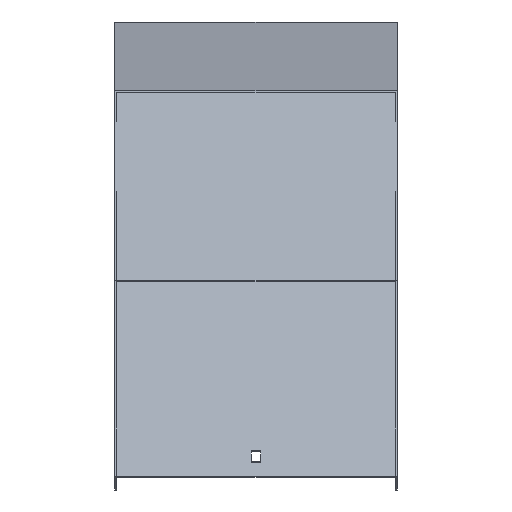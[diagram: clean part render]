
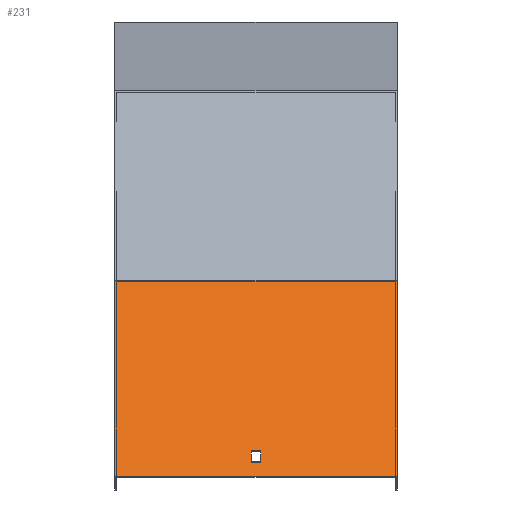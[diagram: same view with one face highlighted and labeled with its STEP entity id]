
A CAD part, top view. The second image highlights one B-rep face of the part: STEP entity #231.
In plain terms, the highlighted planar face has unit normal (0, 0.5, 0.866).
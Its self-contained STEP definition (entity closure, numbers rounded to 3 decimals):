
#1 = DIRECTION ( 'NONE',  ( 0., -0.866, 0.5 ) ) ;
#3 = CARTESIAN_POINT ( 'NONE',  ( 101.5, -168.696, 486.832 ) ) ;
#21 = VERTEX_POINT ( 'NONE', #517 ) ;
#51 = LINE ( 'NONE', #61, #580 ) ;
#59 = LINE ( 'NONE', #228, #825 ) ;
#61 = CARTESIAN_POINT ( 'NONE',  ( 101.5, -166.416, 485.515 ) ) ;
#77 = CARTESIAN_POINT ( 'NONE',  ( -101.5, -307.26, 566.832 ) ) ;
#79 = ORIENTED_EDGE ( 'NONE', *, *, #549, .F. ) ;
#92 = ORIENTED_EDGE ( 'NONE', *, *, #161, .T. ) ;
#95 = VERTEX_POINT ( 'NONE', #379 ) ;
#113 = VECTOR ( 'NONE', #124, 1000. ) ;
#124 = DIRECTION ( 'NONE',  ( -1., 0., 0. ) ) ;
#151 = VERTEX_POINT ( 'NONE', #77 ) ;
#157 = EDGE_LOOP ( 'NONE', ( #169, #92, #726, #480 ) ) ;
#161 = EDGE_CURVE ( 'NONE', #826, #304, #234, .T. ) ;
#169 = ORIENTED_EDGE ( 'NONE', *, *, #963, .T. ) ;
#181 = ORIENTED_EDGE ( 'NONE', *, *, #359, .T. ) ;
#195 = CARTESIAN_POINT ( 'NONE',  ( 3.25, -289.074, 556.332 ) ) ;
#228 = CARTESIAN_POINT ( 'NONE',  ( 101.5, -307.26, 566.832 ) ) ;
#231 = ADVANCED_FACE ( 'NONE', ( #793, #271 ), #335, .F. ) ;
#233 = CARTESIAN_POINT ( 'NONE',  ( 3.25, -168.696, 486.832 ) ) ;
#234 = LINE ( 'NONE', #233, #250 ) ;
#250 = VECTOR ( 'NONE', #1, 1000. ) ;
#257 = CARTESIAN_POINT ( 'NONE',  ( 101.5, -168.696, 486.832 ) ) ;
#262 = DIRECTION ( 'NONE',  ( 0., 0.866, -0.5 ) ) ;
#268 = DIRECTION ( 'NONE',  ( 1., 0., 0. ) ) ;
#271 = FACE_OUTER_BOUND ( 'NONE', #858, .T. ) ;
#285 = LINE ( 'NONE', #602, #392 ) ;
#304 = VERTEX_POINT ( 'NONE', #861 ) ;
#312 = DIRECTION ( 'NONE',  ( 0., -0.866, 0.5 ) ) ;
#335 = PLANE ( 'NONE',  #736 ) ;
#345 = VECTOR ( 'NONE', #977, 1000. ) ;
#347 = ORIENTED_EDGE ( 'NONE', *, *, #635, .T. ) ;
#357 = VERTEX_POINT ( 'NONE', #807 ) ;
#359 = EDGE_CURVE ( 'NONE', #21, #95, #51, .T. ) ;
#372 = LINE ( 'NONE', #685, #113 ) ;
#379 = CARTESIAN_POINT ( 'NONE',  ( -101.5, -166.416, 485.515 ) ) ;
#392 = VECTOR ( 'NONE', #312, 1000. ) ;
#428 = ORIENTED_EDGE ( 'NONE', *, *, #928, .F. ) ;
#433 = VECTOR ( 'NONE', #434, 1000. ) ;
#434 = DIRECTION ( 'NONE',  ( 0., 0.866, -0.5 ) ) ;
#436 = VERTEX_POINT ( 'NONE', #841 ) ;
#444 = DIRECTION ( 'NONE',  ( -1., 0., 0. ) ) ;
#455 = CARTESIAN_POINT ( 'NONE',  ( -3.25, -296.868, 560.832 ) ) ;
#459 = VECTOR ( 'NONE', #268, 1000. ) ;
#480 = ORIENTED_EDGE ( 'NONE', *, *, #832, .T. ) ;
#517 = CARTESIAN_POINT ( 'NONE',  ( 101.5, -166.416, 485.515 ) ) ;
#538 = CARTESIAN_POINT ( 'NONE',  ( 101.5, -289.074, 556.332 ) ) ;
#549 = EDGE_CURVE ( 'NONE', #21, #357, #667, .T. ) ;
#580 = VECTOR ( 'NONE', #444, 1000. ) ;
#602 = CARTESIAN_POINT ( 'NONE',  ( -101.5, -168.696, 486.832 ) ) ;
#635 = EDGE_CURVE ( 'NONE', #95, #151, #285, .T. ) ;
#667 = LINE ( 'NONE', #3, #345 ) ;
#673 = LINE ( 'NONE', #949, #433 ) ;
#685 = CARTESIAN_POINT ( 'NONE',  ( 101.5, -296.868, 560.832 ) ) ;
#718 = DIRECTION ( 'NONE',  ( 0., -0.5, -0.866 ) ) ;
#726 = ORIENTED_EDGE ( 'NONE', *, *, #947, .T. ) ;
#736 = AXIS2_PLACEMENT_3D ( 'NONE', #257, #718, #262 ) ;
#738 = LINE ( 'NONE', #538, #459 ) ;
#793 = FACE_BOUND ( 'NONE', #157, .T. ) ;
#807 = CARTESIAN_POINT ( 'NONE',  ( 101.5, -307.26, 566.832 ) ) ;
#825 = VECTOR ( 'NONE', #886, 1000. ) ;
#826 = VERTEX_POINT ( 'NONE', #195 ) ;
#832 = EDGE_CURVE ( 'NONE', #891, #436, #673, .T. ) ;
#841 = CARTESIAN_POINT ( 'NONE',  ( -3.25, -289.074, 556.332 ) ) ;
#858 = EDGE_LOOP ( 'NONE', ( #347, #428, #79, #181 ) ) ;
#861 = CARTESIAN_POINT ( 'NONE',  ( 3.25, -296.868, 560.832 ) ) ;
#886 = DIRECTION ( 'NONE',  ( -1., 0., 0. ) ) ;
#891 = VERTEX_POINT ( 'NONE', #455 ) ;
#928 = EDGE_CURVE ( 'NONE', #357, #151, #59, .T. ) ;
#947 = EDGE_CURVE ( 'NONE', #304, #891, #372, .T. ) ;
#949 = CARTESIAN_POINT ( 'NONE',  ( -3.25, -168.696, 486.832 ) ) ;
#963 = EDGE_CURVE ( 'NONE', #436, #826, #738, .T. ) ;
#977 = DIRECTION ( 'NONE',  ( 0., -0.866, 0.5 ) ) ;
